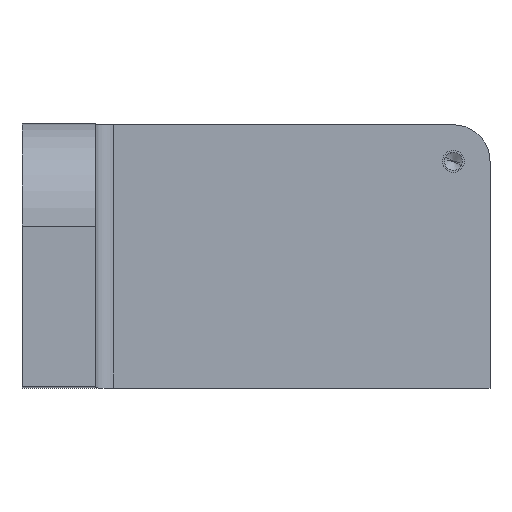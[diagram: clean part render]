
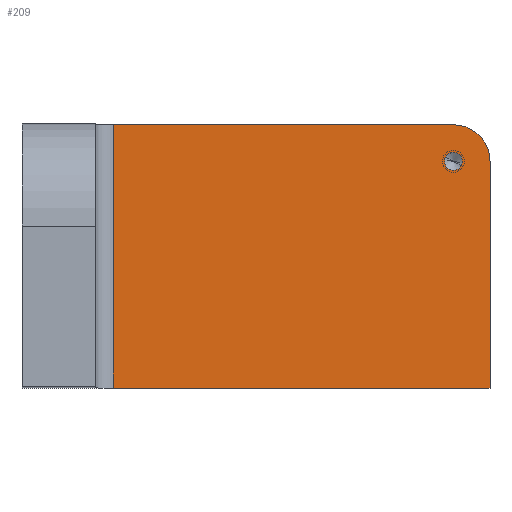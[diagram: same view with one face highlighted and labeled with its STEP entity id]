
A CAD part, top view. The second image highlights one B-rep face of the part: STEP entity #209.
In plain terms, the highlighted planar face has unit normal (0, 0, 1).
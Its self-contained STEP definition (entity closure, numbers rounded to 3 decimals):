
#144=CARTESIAN_POINT('Axis2P3D Location',(0.,0.,20.)) ;
#149=CARTESIAN_POINT('Line Origine',(76.5,0.,20.)) ;
#153=CARTESIAN_POINT('Vertex',(25.,0.,20.)) ;
#155=CARTESIAN_POINT('Vertex',(128.,0.,20.)) ;
#158=CARTESIAN_POINT('Line Origine',(128.,31.,20.)) ;
#162=CARTESIAN_POINT('Vertex',(128.,62.,20.)) ;
#165=CARTESIAN_POINT('Axis2P3D Location',(118.,62.,20.)) ;
#169=CARTESIAN_POINT('Vertex',(118.,72.,20.)) ;
#172=CARTESIAN_POINT('Line Origine',(71.5,72.,20.)) ;
#176=CARTESIAN_POINT('Vertex',(25.,72.,20.)) ;
#179=CARTESIAN_POINT('Line Origine',(25.,36.,20.)) ;
#191=CARTESIAN_POINT('Axis2P3D Location',(118.,62.,20.)) ;
#195=CARTESIAN_POINT('Vertex',(115.842,63.179,20.)) ;
#197=CARTESIAN_POINT('Vertex',(120.158,60.821,20.)) ;
#200=CARTESIAN_POINT('Axis2P3D Location',(118.,62.,20.)) ;
#145=DIRECTION('Axis2P3D Direction',(0.,0.,1.)) ;
#146=DIRECTION('Axis2P3D XDirection',(1.,0.,0.)) ;
#150=DIRECTION('Vector Direction',(1.,0.,0.)) ;
#159=DIRECTION('Vector Direction',(0.,1.,0.)) ;
#166=DIRECTION('Axis2P3D Direction',(0.,0.,1.)) ;
#173=DIRECTION('Vector Direction',(-1.,0.,0.)) ;
#180=DIRECTION('Vector Direction',(0.,-1.,0.)) ;
#192=DIRECTION('Axis2P3D Direction',(0.,0.,1.)) ;
#201=DIRECTION('Axis2P3D Direction',(0.,0.,1.)) ;
#147=AXIS2_PLACEMENT_3D('Plane Axis2P3D',#144,#145,#146) ;
#167=AXIS2_PLACEMENT_3D('Circle Axis2P3D',#165,#166,$) ;
#193=AXIS2_PLACEMENT_3D('Circle Axis2P3D',#191,#192,$) ;
#202=AXIS2_PLACEMENT_3D('Circle Axis2P3D',#200,#201,$) ;
#185=ORIENTED_EDGE('',*,*,#157,.T.) ;
#186=ORIENTED_EDGE('',*,*,#164,.T.) ;
#187=ORIENTED_EDGE('',*,*,#171,.T.) ;
#188=ORIENTED_EDGE('',*,*,#178,.T.) ;
#189=ORIENTED_EDGE('',*,*,#183,.F.) ;
#206=ORIENTED_EDGE('',*,*,#199,.F.) ;
#207=ORIENTED_EDGE('',*,*,#204,.F.) ;
#208=FACE_BOUND('',#205,.T.) ;
#151=VECTOR('Line Direction',#150,1.) ;
#160=VECTOR('Line Direction',#159,1.) ;
#174=VECTOR('Line Direction',#173,1.) ;
#181=VECTOR('Line Direction',#180,1.) ;
#209=ADVANCED_FACE('PartBody',(#190,#208),#148,.T.) ;
#168=CIRCLE('generated circle',#167,10.) ;
#194=CIRCLE('generated circle',#193,2.459) ;
#203=CIRCLE('generated circle',#202,2.459) ;
#157=EDGE_CURVE('',#154,#156,#152,.T.) ;
#164=EDGE_CURVE('',#156,#163,#161,.T.) ;
#171=EDGE_CURVE('',#163,#170,#168,.T.) ;
#178=EDGE_CURVE('',#170,#177,#175,.T.) ;
#183=EDGE_CURVE('',#154,#177,#182,.F.) ;
#199=EDGE_CURVE('',#196,#198,#194,.T.) ;
#204=EDGE_CURVE('',#198,#196,#203,.T.) ;
#184=EDGE_LOOP('',(#185,#186,#187,#188,#189)) ;
#205=EDGE_LOOP('',(#206,#207)) ;
#190=FACE_OUTER_BOUND('',#184,.T.) ;
#152=LINE('Line',#149,#151) ;
#161=LINE('Line',#158,#160) ;
#175=LINE('Line',#172,#174) ;
#182=LINE('Line',#179,#181) ;
#148=PLANE('',#147) ;
#154=VERTEX_POINT('',#153) ;
#156=VERTEX_POINT('',#155) ;
#163=VERTEX_POINT('',#162) ;
#170=VERTEX_POINT('',#169) ;
#177=VERTEX_POINT('',#176) ;
#196=VERTEX_POINT('',#195) ;
#198=VERTEX_POINT('',#197) ;
